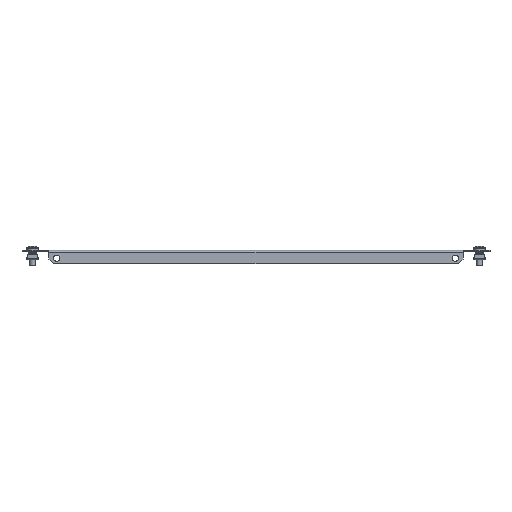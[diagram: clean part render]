
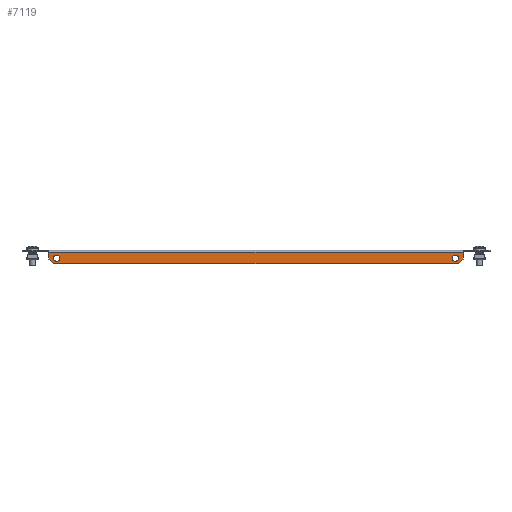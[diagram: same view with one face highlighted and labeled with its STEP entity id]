
A CAD part, front view. The second image highlights one B-rep face of the part: STEP entity #7119.
In plain terms, the highlighted planar face has unit normal (0, -1, 0).
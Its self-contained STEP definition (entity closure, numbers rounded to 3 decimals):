
#19 = DIRECTION ( 'NONE',  ( 1., 0., 0. ) ) ;
#324 = VERTEX_POINT ( 'NONE', #6920 ) ;
#587 = CARTESIAN_POINT ( 'NONE',  ( -207., -49.5, -8. ) ) ;
#644 = VERTEX_POINT ( 'NONE', #3481 ) ;
#665 = EDGE_CURVE ( 'NONE', #673, #644, #3564, .T. ) ;
#673 = VERTEX_POINT ( 'NONE', #4770 ) ;
#761 = CARTESIAN_POINT ( 'NONE',  ( 207., -49.5, -8. ) ) ;
#831 = EDGE_CURVE ( 'NONE', #2209, #4607, #3099, .T. ) ;
#1025 = CARTESIAN_POINT ( 'NONE',  ( 112., -49.5, -112. ) ) ;
#1117 = EDGE_CURVE ( 'NONE', #4607, #324, #4102, .T. ) ;
#1177 = EDGE_LOOP ( 'NONE', ( #8222, #8232, #3703, #7636, #3780, #5095 ) ) ;
#1295 = EDGE_CURVE ( 'NONE', #4551, #4551, #4061, .T. ) ;
#1392 = EDGE_CURVE ( 'NONE', #1432, #1432, #2864, .T. ) ;
#1432 = VERTEX_POINT ( 'NONE', #6520 ) ;
#1450 = VECTOR ( 'NONE', #19, 1000. ) ;
#1605 = FACE_BOUND ( 'NONE', #4987, .T. ) ;
#1707 = ORIENTED_EDGE ( 'NONE', *, *, #1392, .F. ) ;
#1848 = CARTESIAN_POINT ( 'NONE',  ( -112., -49.5, -112. ) ) ;
#2012 = LINE ( 'NONE', #1848, #6552 ) ;
#2054 = VECTOR ( 'NONE', #5645, 1000. ) ;
#2209 = VERTEX_POINT ( 'NONE', #6505 ) ;
#2314 = CARTESIAN_POINT ( 'NONE',  ( -210., -49.5, -14. ) ) ;
#2454 = VECTOR ( 'NONE', #3510, 1000. ) ;
#2594 = CARTESIAN_POINT ( 'NONE',  ( -207., -49.5, -4.75 ) ) ;
#2611 = LINE ( 'NONE', #6322, #1450 ) ;
#2624 = LINE ( 'NONE', #2723, #6903 ) ;
#2723 = CARTESIAN_POINT ( 'NONE',  ( 215., -49.5, 0. ) ) ;
#2864 = CIRCLE ( 'NONE', #4595, 3.25 ) ;
#2899 = DIRECTION ( 'NONE',  ( 0.707, 0., 0.707 ) ) ;
#3099 = LINE ( 'NONE', #6992, #2054 ) ;
#3481 = CARTESIAN_POINT ( 'NONE',  ( 215., -49.5, -9. ) ) ;
#3510 = DIRECTION ( 'NONE',  ( 0., 0., -1. ) ) ;
#3515 = DIRECTION ( 'NONE',  ( 0., -1., 0. ) ) ;
#3549 = AXIS2_PLACEMENT_3D ( 'NONE', #5439, #3515, #7997 ) ;
#3564 = LINE ( 'NONE', #1025, #5920 ) ;
#3625 = ORIENTED_EDGE ( 'NONE', *, *, #1295, .T. ) ;
#3703 = ORIENTED_EDGE ( 'NONE', *, *, #5892, .T. ) ;
#3780 = ORIENTED_EDGE ( 'NONE', *, *, #1117, .T. ) ;
#3798 = VERTEX_POINT ( 'NONE', #2314 ) ;
#4061 = CIRCLE ( 'NONE', #5117, 3.25 ) ;
#4102 = LINE ( 'NONE', #4723, #2454 ) ;
#4145 = PLANE ( 'NONE',  #3549 ) ;
#4274 = EDGE_CURVE ( 'NONE', #3798, #673, #2611, .T. ) ;
#4551 = VERTEX_POINT ( 'NONE', #2594 ) ;
#4595 = AXIS2_PLACEMENT_3D ( 'NONE', #761, #7820, #6392 ) ;
#4607 = VERTEX_POINT ( 'NONE', #6814 ) ;
#4723 = CARTESIAN_POINT ( 'NONE',  ( -215., -49.5, 0. ) ) ;
#4740 = EDGE_CURVE ( 'NONE', #324, #3798, #2012, .T. ) ;
#4768 = FACE_BOUND ( 'NONE', #5756, .T. ) ;
#4770 = CARTESIAN_POINT ( 'NONE',  ( 210., -49.5, -14. ) ) ;
#4987 = EDGE_LOOP ( 'NONE', ( #3625 ) ) ;
#5095 = ORIENTED_EDGE ( 'NONE', *, *, #4740, .T. ) ;
#5117 = AXIS2_PLACEMENT_3D ( 'NONE', #587, #5724, #8194 ) ;
#5275 = FACE_OUTER_BOUND ( 'NONE', #1177, .T. ) ;
#5439 = CARTESIAN_POINT ( 'NONE',  ( 0., -49.5, 0. ) ) ;
#5645 = DIRECTION ( 'NONE',  ( -1., 0., 0. ) ) ;
#5724 = DIRECTION ( 'NONE',  ( 0., 1., 0. ) ) ;
#5754 = DIRECTION ( 'NONE',  ( 0., 0., 1. ) ) ;
#5756 = EDGE_LOOP ( 'NONE', ( #1707 ) ) ;
#5892 = EDGE_CURVE ( 'NONE', #644, #2209, #2624, .T. ) ;
#5920 = VECTOR ( 'NONE', #2899, 1000. ) ;
#6322 = CARTESIAN_POINT ( 'NONE',  ( 0., -49.5, -14. ) ) ;
#6392 = DIRECTION ( 'NONE',  ( 0., 0., 1. ) ) ;
#6505 = CARTESIAN_POINT ( 'NONE',  ( 215., -49.5, -2. ) ) ;
#6520 = CARTESIAN_POINT ( 'NONE',  ( 207., -49.5, -4.75 ) ) ;
#6552 = VECTOR ( 'NONE', #7577, 1000. ) ;
#6814 = CARTESIAN_POINT ( 'NONE',  ( -215., -49.5, -2. ) ) ;
#6903 = VECTOR ( 'NONE', #5754, 1000. ) ;
#6920 = CARTESIAN_POINT ( 'NONE',  ( -215., -49.5, -9. ) ) ;
#6992 = CARTESIAN_POINT ( 'NONE',  ( 0., -49.5, -2. ) ) ;
#7119 = ADVANCED_FACE ( 'NONE', ( #4768, #1605, #5275 ), #4145, .T. ) ;
#7577 = DIRECTION ( 'NONE',  ( 0.707, 0., -0.707 ) ) ;
#7636 = ORIENTED_EDGE ( 'NONE', *, *, #831, .T. ) ;
#7820 = DIRECTION ( 'NONE',  ( 0., -1., 0. ) ) ;
#7997 = DIRECTION ( 'NONE',  ( 0., 0., 1. ) ) ;
#8194 = DIRECTION ( 'NONE',  ( 0., 0., 1. ) ) ;
#8222 = ORIENTED_EDGE ( 'NONE', *, *, #4274, .T. ) ;
#8232 = ORIENTED_EDGE ( 'NONE', *, *, #665, .T. ) ;
